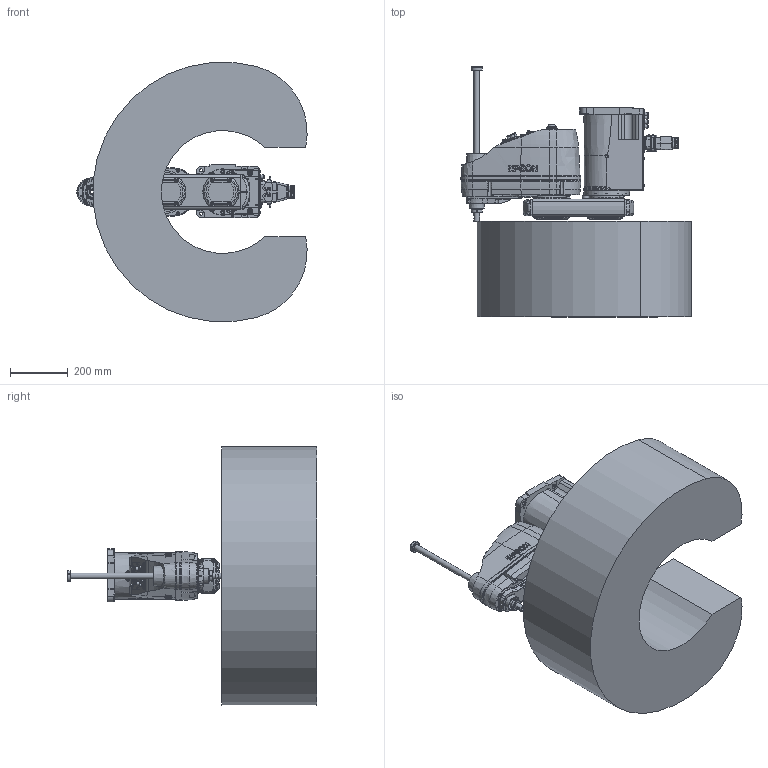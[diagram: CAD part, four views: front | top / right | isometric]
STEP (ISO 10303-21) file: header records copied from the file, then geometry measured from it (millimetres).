
FILE_DESCRIPTION( ( 'STEP AP214' ), '1' );
FILE_NAME( 'C:/Users/9607552/Desktop/GX8-B453SR_straight.stp', '2023-07-07T01:44:56', ( '' ), ( '' ), ' ', 'PARTsolutions', ' ' );
FILE_SCHEMA( ( 'AUTOMOTIVE_DESIGN { 1 0 10303 214 1 1 1 1 }' ) );
Length unit declared in the file: millimetre
Products named in the file (9): GX8-B453SRS-W; _B452SR_BASE; _B452SR; _B452SR_1; _B452SR_2; _B452S_J2; _B453SZA; _Straight-B; _GX8-14-1-B_WS
Assembly tree (10 placements, depth 2):
  GX8-B453SRS-W
    _B452SR_BASE
    _B452SR
    _B452SR_1  x2
    _B452SR_2  x2
    _B452S_J2
    _B453SZA
    _Straight-B
    _GX8-14-1-B_WS
Bounding box: 797.24 x 865 x 896.58 mm (x, y, z)
Volume: 147377107.8 mm3; surface area: 3032815.4 mm2
Topology: 10 solids, 10 shells, 2892 faces, 7041 edges, 4586 vertices
Faces by surface type: plane 1438, cylinder 924, cone 365, torus 122, bspline 37, sphere 6
Full cylindrical faces by diameter (mm): 1 x48, 1.18 x55, 2.261 x4, 2.459 x12, 3 x32, 3.242 x18, 3.3 x5, 3.9 x4, 4 x4, 4.2 x8, 4.5 x4, 4.8 x4, 5.34 x4, 5.5 x17, 6 x1, 6.2 x4, 6.647 x4, 6.8 x2, 7 x48, 8 x5, 8.5 x6, 9 x24, 10 x18, 11 x4, 11.2 x7, 11.5 x1, 12 x5, 12.25 x1, 13 x3, 13.2 x12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
Entity records: 103170 total; most frequent: CARTESIAN_POINT 19684, DIRECTION 12695, ORIENTED_EDGE 11734, EDGE_CURVE 5867, AXIS2_PLACEMENT_3D 4911, VERTEX_POINT 4221, EDGE_LOOP 3827, FACE_OUTER_BOUND 3185
